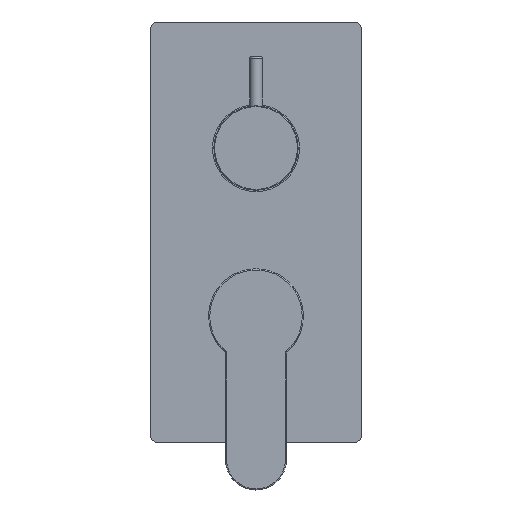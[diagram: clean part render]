
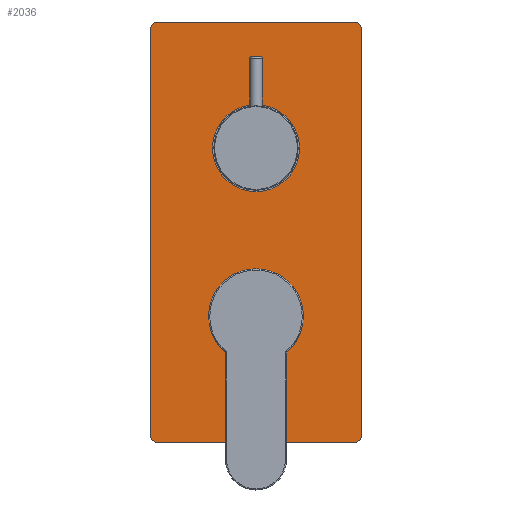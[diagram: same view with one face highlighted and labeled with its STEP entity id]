
A CAD part, top view. The second image highlights one B-rep face of the part: STEP entity #2036.
In plain terms, the highlighted planar face has unit normal (0, 0, 1).
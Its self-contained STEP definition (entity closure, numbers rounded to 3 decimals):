
#257 = ORIENTED_EDGE ( 'NONE', *, *, #3975, .T. ) ;
#625 = DIRECTION ( 'NONE',  ( 1., 0., 0. ) ) ;
#773 = EDGE_CURVE ( 'NONE', #6515, #27444, #13114, .T. ) ;
#920 = CARTESIAN_POINT ( 'NONE',  ( -100., -47., 2. ) ) ;
#1071 = DIRECTION ( 'NONE',  ( 0., 0., 1. ) ) ;
#1431 = VERTEX_POINT ( 'NONE', #30409 ) ;
#1676 = CIRCLE ( 'NONE', #8510, 20.7 ) ;
#1699 = DIRECTION ( 'NONE',  ( 0., 0., 1. ) ) ;
#1784 = DIRECTION ( 'NONE',  ( 0., 0., 1. ) ) ;
#1953 = DIRECTION ( 'NONE',  ( 0., 0., 1. ) ) ;
#2036 = ADVANCED_FACE ( 'NONE', ( #11324, #16102, #30969 ), #19069, .T. ) ;
#2248 = EDGE_LOOP ( 'NONE', ( #2729, #4899, #257, #31649, #17239, #18839, #13368, #15057 ) ) ;
#2408 = AXIS2_PLACEMENT_3D ( 'NONE', #24876, #20387, #12822 ) ;
#2729 = ORIENTED_EDGE ( 'NONE', *, *, #24674, .T. ) ;
#2972 = CARTESIAN_POINT ( 'NONE',  ( 100., 47., 2. ) ) ;
#3088 = EDGE_CURVE ( 'NONE', #1431, #12716, #4853, .T. ) ;
#3167 = CARTESIAN_POINT ( 'NONE',  ( 97., -50., 2. ) ) ;
#3464 = CARTESIAN_POINT ( 'NONE',  ( 97., -47., 2. ) ) ;
#3644 = AXIS2_PLACEMENT_3D ( 'NONE', #26680, #1784, #9191 ) ;
#3975 = EDGE_CURVE ( 'NONE', #26370, #31484, #28478, .T. ) ;
#4853 = CIRCLE ( 'NONE', #9047, 20.7 ) ;
#4899 = ORIENTED_EDGE ( 'NONE', *, *, #6190, .T. ) ;
#5556 = CARTESIAN_POINT ( 'NONE',  ( 100., -50., 2. ) ) ;
#5576 = DIRECTION ( 'NONE',  ( -1., 0., 0. ) ) ;
#5710 = VECTOR ( 'NONE', #625, 1000. ) ;
#6087 = DIRECTION ( 'NONE',  ( 0., 0., 1. ) ) ;
#6190 = EDGE_CURVE ( 'NONE', #12533, #26370, #27295, .T. ) ;
#6515 = VERTEX_POINT ( 'NONE', #2972 ) ;
#6912 = DIRECTION ( 'NONE',  ( 1., 0., 0. ) ) ;
#6915 = CARTESIAN_POINT ( 'NONE',  ( 97., 50., 2. ) ) ;
#7316 = DIRECTION ( 'NONE',  ( 0., -1., 0. ) ) ;
#7592 = EDGE_LOOP ( 'NONE', ( #27047, #17477 ) ) ;
#8510 = AXIS2_PLACEMENT_3D ( 'NONE', #9050, #9358, #6912 ) ;
#8632 = DIRECTION ( 'NONE',  ( 1., 0., 0. ) ) ;
#9047 = AXIS2_PLACEMENT_3D ( 'NONE', #9428, #1699, #27080 ) ;
#9050 = CARTESIAN_POINT ( 'NONE',  ( 40., 0., 2. ) ) ;
#9149 = CARTESIAN_POINT ( 'NONE',  ( -100., -50., 2. ) ) ;
#9191 = DIRECTION ( 'NONE',  ( 1., 0., 0. ) ) ;
#9358 = DIRECTION ( 'NONE',  ( 0., 0., 1. ) ) ;
#9428 = CARTESIAN_POINT ( 'NONE',  ( -40., 0., 2. ) ) ;
#9792 = VERTEX_POINT ( 'NONE', #15944 ) ;
#10258 = EDGE_CURVE ( 'NONE', #9792, #20230, #1676, .T. ) ;
#10556 = ORIENTED_EDGE ( 'NONE', *, *, #20150, .F. ) ;
#11324 = FACE_BOUND ( 'NONE', #7592, .T. ) ;
#12533 = VERTEX_POINT ( 'NONE', #25237 ) ;
#12716 = VERTEX_POINT ( 'NONE', #18280 ) ;
#12822 = DIRECTION ( 'NONE',  ( 1., 0., 0. ) ) ;
#13114 = CIRCLE ( 'NONE', #3644, 3. ) ;
#13368 = ORIENTED_EDGE ( 'NONE', *, *, #21083, .T. ) ;
#13452 = LINE ( 'NONE', #23208, #5710 ) ;
#13959 = DIRECTION ( 'NONE',  ( 0., 0., 1. ) ) ;
#14514 = VECTOR ( 'NONE', #28491, 1000. ) ;
#15057 = ORIENTED_EDGE ( 'NONE', *, *, #773, .T. ) ;
#15612 = CARTESIAN_POINT ( 'NONE',  ( 100., 50., 2. ) ) ;
#15944 = CARTESIAN_POINT ( 'NONE',  ( 19.3, 0., 2. ) ) ;
#16102 = FACE_OUTER_BOUND ( 'NONE', #2248, .T. ) ;
#16469 = DIRECTION ( 'NONE',  ( 1., 0., 0. ) ) ;
#17239 = ORIENTED_EDGE ( 'NONE', *, *, #32453, .T. ) ;
#17405 = EDGE_CURVE ( 'NONE', #31484, #27477, #18001, .T. ) ;
#17477 = ORIENTED_EDGE ( 'NONE', *, *, #28909, .F. ) ;
#17681 = AXIS2_PLACEMENT_3D ( 'NONE', #3464, #6087, #26699 ) ;
#18001 = CIRCLE ( 'NONE', #31721, 3. ) ;
#18054 = CARTESIAN_POINT ( 'NONE',  ( 100., -47., 2. ) ) ;
#18082 = LINE ( 'NONE', #15612, #23617 ) ;
#18132 = AXIS2_PLACEMENT_3D ( 'NONE', #23603, #31333, #29051 ) ;
#18280 = CARTESIAN_POINT ( 'NONE',  ( -19.3, 0., 2. ) ) ;
#18664 = CIRCLE ( 'NONE', #18132, 20.7 ) ;
#18839 = ORIENTED_EDGE ( 'NONE', *, *, #23233, .T. ) ;
#19069 = PLANE ( 'NONE',  #22672 ) ;
#20150 = EDGE_CURVE ( 'NONE', #20230, #9792, #18664, .T. ) ;
#20230 = VERTEX_POINT ( 'NONE', #23436 ) ;
#20387 = DIRECTION ( 'NONE',  ( 0., 0., 1. ) ) ;
#21006 = CARTESIAN_POINT ( 'NONE',  ( -97., 47., 2. ) ) ;
#21083 = EDGE_CURVE ( 'NONE', #30564, #6515, #30945, .T. ) ;
#21488 = AXIS2_PLACEMENT_3D ( 'NONE', #21006, #1071, #8632 ) ;
#21540 = DIRECTION ( 'NONE',  ( 1., 0., 0. ) ) ;
#21578 = CARTESIAN_POINT ( 'NONE',  ( -97., -47., 2. ) ) ;
#22672 = AXIS2_PLACEMENT_3D ( 'NONE', #26024, #13959, #21540 ) ;
#23208 = CARTESIAN_POINT ( 'NONE',  ( 100., -50., 2. ) ) ;
#23233 = EDGE_CURVE ( 'NONE', #30887, #30564, #30370, .T. ) ;
#23394 = EDGE_LOOP ( 'NONE', ( #24447, #10556 ) ) ;
#23436 = CARTESIAN_POINT ( 'NONE',  ( 60.7, 0., 2. ) ) ;
#23603 = CARTESIAN_POINT ( 'NONE',  ( 40., 0., 2. ) ) ;
#23617 = VECTOR ( 'NONE', #5576, 1000. ) ;
#24236 = CARTESIAN_POINT ( 'NONE',  ( -97., -50., 2. ) ) ;
#24447 = ORIENTED_EDGE ( 'NONE', *, *, #10258, .F. ) ;
#24674 = EDGE_CURVE ( 'NONE', #27444, #12533, #18082, .T. ) ;
#24876 = CARTESIAN_POINT ( 'NONE',  ( -40., 0., 2. ) ) ;
#25237 = CARTESIAN_POINT ( 'NONE',  ( -97., 50., 2. ) ) ;
#26024 = CARTESIAN_POINT ( 'NONE',  ( 0., 0., 2. ) ) ;
#26112 = CARTESIAN_POINT ( 'NONE',  ( -100., 47., 2. ) ) ;
#26370 = VERTEX_POINT ( 'NONE', #26112 ) ;
#26680 = CARTESIAN_POINT ( 'NONE',  ( 97., 47., 2. ) ) ;
#26699 = DIRECTION ( 'NONE',  ( 1., 0., 0. ) ) ;
#27047 = ORIENTED_EDGE ( 'NONE', *, *, #3088, .F. ) ;
#27080 = DIRECTION ( 'NONE',  ( 1., 0., 0. ) ) ;
#27295 = CIRCLE ( 'NONE', #21488, 3. ) ;
#27444 = VERTEX_POINT ( 'NONE', #6915 ) ;
#27477 = VERTEX_POINT ( 'NONE', #24236 ) ;
#28478 = LINE ( 'NONE', #9149, #29556 ) ;
#28491 = DIRECTION ( 'NONE',  ( 0., 1., 0. ) ) ;
#28909 = EDGE_CURVE ( 'NONE', #12716, #1431, #31378, .T. ) ;
#29051 = DIRECTION ( 'NONE',  ( 1., 0., 0. ) ) ;
#29556 = VECTOR ( 'NONE', #7316, 1000. ) ;
#30370 = CIRCLE ( 'NONE', #17681, 3. ) ;
#30409 = CARTESIAN_POINT ( 'NONE',  ( -60.7, 0., 2. ) ) ;
#30564 = VERTEX_POINT ( 'NONE', #18054 ) ;
#30887 = VERTEX_POINT ( 'NONE', #3167 ) ;
#30945 = LINE ( 'NONE', #5556, #14514 ) ;
#30969 = FACE_BOUND ( 'NONE', #23394, .T. ) ;
#31333 = DIRECTION ( 'NONE',  ( 0., 0., 1. ) ) ;
#31378 = CIRCLE ( 'NONE', #2408, 20.7 ) ;
#31484 = VERTEX_POINT ( 'NONE', #920 ) ;
#31649 = ORIENTED_EDGE ( 'NONE', *, *, #17405, .T. ) ;
#31721 = AXIS2_PLACEMENT_3D ( 'NONE', #21578, #1953, #16469 ) ;
#32453 = EDGE_CURVE ( 'NONE', #27477, #30887, #13452, .T. ) ;
